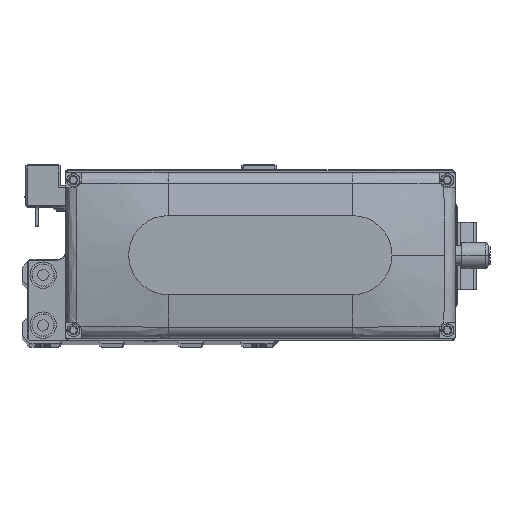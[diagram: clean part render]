
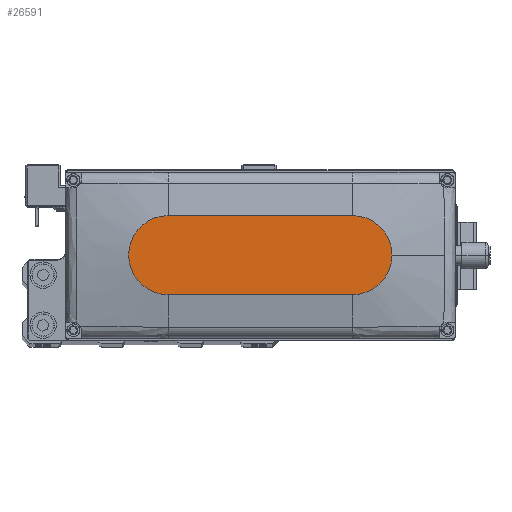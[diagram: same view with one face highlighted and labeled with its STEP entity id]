
A CAD part, top view. The second image highlights one B-rep face of the part: STEP entity #26591.
In plain terms, the highlighted planar face has unit normal (0, 0, 1).
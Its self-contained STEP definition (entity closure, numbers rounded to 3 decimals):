
#133 = CARTESIAN_POINT ( 'NONE',  ( 35., 15., 35. ) ) ;
#736 = DIRECTION ( 'NONE',  ( 1., 0., 0. ) ) ;
#1638 = VERTEX_POINT ( 'NONE', #9262 ) ;
#2343 = DIRECTION ( 'NONE',  ( 0., 0., 1. ) ) ;
#3955 = LINE ( 'NONE', #17156, #11210 ) ;
#4646 = CIRCLE ( 'NONE', #28831, 15. ) ;
#4716 = VECTOR ( 'NONE', #21408, 1000. ) ;
#4720 = AXIS2_PLACEMENT_3D ( 'NONE', #31982, #2343, #15532 ) ;
#5246 = ORIENTED_EDGE ( 'NONE', *, *, #38783, .T. ) ;
#5287 = CARTESIAN_POINT ( 'NONE',  ( 35., 0., 35. ) ) ;
#5965 = ORIENTED_EDGE ( 'NONE', *, *, #39411, .T. ) ;
#8200 = CARTESIAN_POINT ( 'NONE',  ( -35., 15., 35. ) ) ;
#8222 = CARTESIAN_POINT ( 'NONE',  ( -35., -15., 35. ) ) ;
#8611 = VERTEX_POINT ( 'NONE', #133 ) ;
#9250 = EDGE_LOOP ( 'NONE', ( #15094, #5246, #27734, #5965, #31984 ) ) ;
#9262 = CARTESIAN_POINT ( 'NONE',  ( 35., -15., 35. ) ) ;
#11210 = VECTOR ( 'NONE', #30369, 1000. ) ;
#11592 = CARTESIAN_POINT ( 'NONE',  ( 0., 0., 35. ) ) ;
#12953 = CIRCLE ( 'NONE', #37166, 15. ) ;
#15094 = ORIENTED_EDGE ( 'NONE', *, *, #18076, .T. ) ;
#15532 = DIRECTION ( 'NONE',  ( 1., 0., 0. ) ) ;
#17156 = CARTESIAN_POINT ( 'NONE',  ( -35., -15., 35. ) ) ;
#17192 = CARTESIAN_POINT ( 'NONE',  ( -35., 0., 35. ) ) ;
#18076 = EDGE_CURVE ( 'NONE', #8611, #39333, #37858, .T. ) ;
#18485 = DIRECTION ( 'NONE',  ( 0., 0., 1. ) ) ;
#18535 = CARTESIAN_POINT ( 'NONE',  ( 50., 0., 35. ) ) ;
#18581 = VERTEX_POINT ( 'NONE', #18535 ) ;
#21205 = EDGE_CURVE ( 'NONE', #18581, #8611, #4646, .T. ) ;
#21408 = DIRECTION ( 'NONE',  ( -1., 0., 0. ) ) ;
#23379 = CIRCLE ( 'NONE', #4720, 15. ) ;
#24803 = DIRECTION ( 'NONE',  ( 0., 0., 1. ) ) ;
#26036 = EDGE_CURVE ( 'NONE', #34855, #1638, #3955, .T. ) ;
#26591 = ADVANCED_FACE ( 'NONE', ( #28061 ), #41254, .T. ) ;
#27734 = ORIENTED_EDGE ( 'NONE', *, *, #26036, .T. ) ;
#27855 = AXIS2_PLACEMENT_3D ( 'NONE', #11592, #24803, #38007 ) ;
#28061 = FACE_OUTER_BOUND ( 'NONE', #9250, .T. ) ;
#28831 = AXIS2_PLACEMENT_3D ( 'NONE', #5287, #18485, #31697 ) ;
#30369 = DIRECTION ( 'NONE',  ( 1., 0., 0. ) ) ;
#30401 = DIRECTION ( 'NONE',  ( 0., 0., 1. ) ) ;
#31697 = DIRECTION ( 'NONE',  ( 1., 0., 0. ) ) ;
#31982 = CARTESIAN_POINT ( 'NONE',  ( 35., 0., 35. ) ) ;
#31984 = ORIENTED_EDGE ( 'NONE', *, *, #21205, .T. ) ;
#34855 = VERTEX_POINT ( 'NONE', #8222 ) ;
#37166 = AXIS2_PLACEMENT_3D ( 'NONE', #17192, #30401, #736 ) ;
#37858 = LINE ( 'NONE', #8200, #4716 ) ;
#38007 = DIRECTION ( 'NONE',  ( 1., 0., 0. ) ) ;
#38783 = EDGE_CURVE ( 'NONE', #39333, #34855, #12953, .T. ) ;
#39333 = VERTEX_POINT ( 'NONE', #41493 ) ;
#39411 = EDGE_CURVE ( 'NONE', #1638, #18581, #23379, .T. ) ;
#41254 = PLANE ( 'NONE',  #27855 ) ;
#41493 = CARTESIAN_POINT ( 'NONE',  ( -35., 15., 35. ) ) ;
